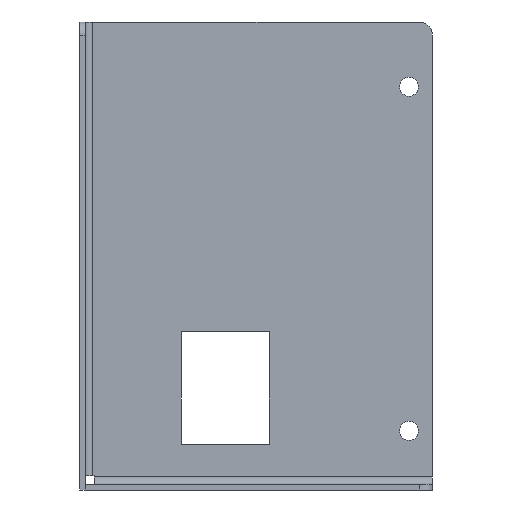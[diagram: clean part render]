
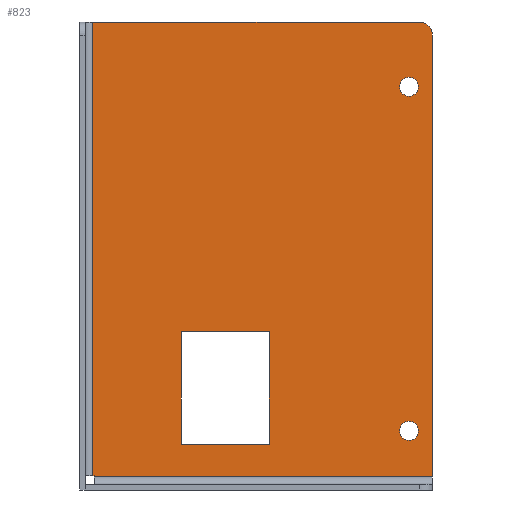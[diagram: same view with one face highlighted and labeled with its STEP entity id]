
A CAD part, front view. The second image highlights one B-rep face of the part: STEP entity #823.
In plain terms, the highlighted planar face has unit normal (0, -1, 0).
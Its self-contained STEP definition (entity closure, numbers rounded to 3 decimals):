
#20=FACE_BOUND('',#146,.T.);
#21=FACE_BOUND('',#147,.T.);
#22=FACE_BOUND('',#148,.T.);
#57=PLANE('',#904);
#95=FACE_OUTER_BOUND('',#145,.T.);
#145=EDGE_LOOP('',(#694,#695,#696,#697,#698,#699,#700));
#146=EDGE_LOOP('',(#701));
#147=EDGE_LOOP('',(#702));
#148=EDGE_LOOP('',(#703,#704,#705,#706));
#188=LINE('',#1218,#275);
#191=LINE('',#1224,#278);
#194=LINE('',#1230,#281);
#198=LINE('',#1239,#285);
#201=LINE('',#1245,#288);
#220=LINE('',#1293,#307);
#221=LINE('',#1297,#308);
#241=LINE('',#1341,#328);
#248=LINE('',#1358,#335);
#249=LINE('',#1359,#336);
#275=VECTOR('',#986,10.);
#278=VECTOR('',#991,10.);
#281=VECTOR('',#996,10.);
#285=VECTOR('',#1002,1000.);
#288=VECTOR('',#1007,1000.);
#307=VECTOR('',#1048,1000.);
#308=VECTOR('',#1051,1000.);
#328=VECTOR('',#1087,10.);
#335=VECTOR('',#1114,1000.);
#336=VECTOR('',#1115,1000.);
#347=CIRCLE('',#857,1.6);
#349=CIRCLE('',#860,1.6);
#365=CIRCLE('',#905,2.21);
#373=VERTEX_POINT('',#1166);
#375=VERTEX_POINT('',#1172);
#390=VERTEX_POINT('',#1212);
#392=VERTEX_POINT('',#1216);
#394=VERTEX_POINT('',#1222);
#396=VERTEX_POINT('',#1228);
#398=VERTEX_POINT('',#1233);
#400=VERTEX_POINT('',#1237);
#402=VERTEX_POINT('',#1243);
#418=VERTEX_POINT('',#1285);
#420=VERTEX_POINT('',#1291);
#421=VERTEX_POINT('',#1295);
#422=VERTEX_POINT('',#1296);
#445=EDGE_CURVE('',#373,#373,#347,.T.);
#448=EDGE_CURVE('',#375,#375,#349,.T.);
#470=EDGE_CURVE('',#390,#392,#188,.F.);
#473=EDGE_CURVE('',#392,#394,#191,.F.);
#476=EDGE_CURVE('',#394,#396,#194,.F.);
#480=EDGE_CURVE('',#398,#400,#198,.T.);
#483=EDGE_CURVE('',#400,#402,#201,.T.);
#506=EDGE_CURVE('',#420,#418,#220,.T.);
#507=EDGE_CURVE('',#421,#422,#221,.T.);
#529=EDGE_CURVE('',#396,#390,#241,.F.);
#540=EDGE_CURVE('',#420,#422,#365,.T.);
#541=EDGE_CURVE('',#421,#398,#248,.T.);
#542=EDGE_CURVE('',#402,#418,#249,.T.);
#694=ORIENTED_EDGE('',*,*,#506,.F.);
#695=ORIENTED_EDGE('',*,*,#540,.T.);
#696=ORIENTED_EDGE('',*,*,#507,.F.);
#697=ORIENTED_EDGE('',*,*,#541,.T.);
#698=ORIENTED_EDGE('',*,*,#480,.T.);
#699=ORIENTED_EDGE('',*,*,#483,.T.);
#700=ORIENTED_EDGE('',*,*,#542,.T.);
#701=ORIENTED_EDGE('',*,*,#448,.T.);
#702=ORIENTED_EDGE('',*,*,#445,.T.);
#703=ORIENTED_EDGE('',*,*,#476,.T.);
#704=ORIENTED_EDGE('',*,*,#529,.T.);
#705=ORIENTED_EDGE('',*,*,#470,.T.);
#706=ORIENTED_EDGE('',*,*,#473,.T.);
#823=ADVANCED_FACE('',(#95,#20,#21,#22),#57,.F.);
#857=AXIS2_PLACEMENT_3D('',#1167,#939,#940);
#860=AXIS2_PLACEMENT_3D('',#1173,#946,#947);
#904=AXIS2_PLACEMENT_3D('',#1356,#1110,#1111);
#905=AXIS2_PLACEMENT_3D('',#1357,#1112,#1113);
#939=DIRECTION('center_axis',(0.,1.,0.));
#940=DIRECTION('ref_axis',(1.,0.,0.));
#946=DIRECTION('center_axis',(0.,1.,0.));
#947=DIRECTION('ref_axis',(1.,0.,0.));
#986=DIRECTION('',(1.,0.,0.));
#991=DIRECTION('',(0.,0.,-1.));
#996=DIRECTION('',(-1.,0.,0.));
#1002=DIRECTION('',(1.,0.,0.));
#1007=DIRECTION('',(0.,0.,-1.));
#1048=DIRECTION('',(0.,0.,-1.));
#1051=DIRECTION('',(1.,0.,0.));
#1087=DIRECTION('',(0.,0.,1.));
#1110=DIRECTION('center_axis',(0.,1.,0.));
#1111=DIRECTION('ref_axis',(1.,0.,0.));
#1112=DIRECTION('center_axis',(0.,-1.,0.));
#1113=DIRECTION('ref_axis',(1.,0.,0.));
#1114=DIRECTION('',(0.,0.,-1.));
#1115=DIRECTION('',(1.,0.,0.));
#1166=CARTESIAN_POINT('',(-2.155,27.56,-61.858));
#1167=CARTESIAN_POINT('Origin',(-0.555,27.56,-61.858));
#1172=CARTESIAN_POINT('',(-2.155,27.56,-3.65));
#1173=CARTESIAN_POINT('Origin',(-0.555,27.56,-3.65));
#1212=CARTESIAN_POINT('',(-24.165,27.56,-64.116));
#1216=CARTESIAN_POINT('',(-39.09,27.56,-64.116));
#1218=CARTESIAN_POINT('',(0.,27.56,-64.116));
#1222=CARTESIAN_POINT('',(-39.09,27.56,-45.073));
#1224=CARTESIAN_POINT('',(-39.09,27.56,6.35));
#1228=CARTESIAN_POINT('',(-24.165,27.56,-45.073));
#1230=CARTESIAN_POINT('',(0.,27.56,-45.073));
#1233=CARTESIAN_POINT('',(-54.09,27.56,-69.408));
#1237=CARTESIAN_POINT('',(-53.85,27.56,-69.408));
#1239=CARTESIAN_POINT('',(0.,27.56,-69.408));
#1243=CARTESIAN_POINT('',(-53.85,27.56,-69.648));
#1245=CARTESIAN_POINT('',(-53.85,27.56,6.35));
#1285=CARTESIAN_POINT('',(3.405,27.56,-69.648));
#1291=CARTESIAN_POINT('',(3.405,27.56,5.1));
#1293=CARTESIAN_POINT('',(3.405,27.56,7.31));
#1295=CARTESIAN_POINT('',(-54.09,27.56,7.31));
#1296=CARTESIAN_POINT('',(1.195,27.56,7.31));
#1297=CARTESIAN_POINT('',(3.405,27.56,7.31));
#1341=CARTESIAN_POINT('',(-24.165,27.56,6.35));
#1356=CARTESIAN_POINT('Origin',(0.,27.56,6.35));
#1357=CARTESIAN_POINT('Origin',(1.195,27.56,5.1));
#1358=CARTESIAN_POINT('',(-54.09,27.56,6.35));
#1359=CARTESIAN_POINT('',(0.,27.56,-69.648));
